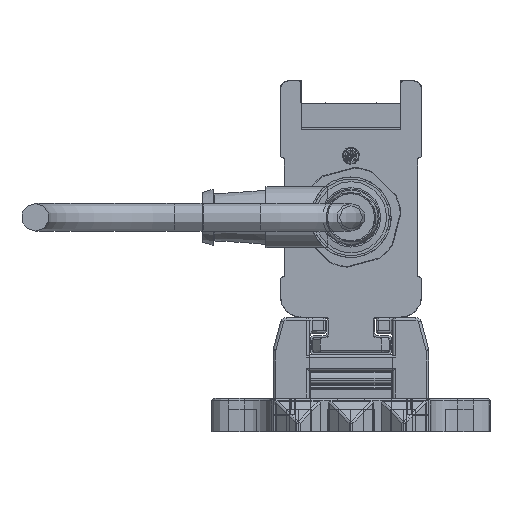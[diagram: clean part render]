
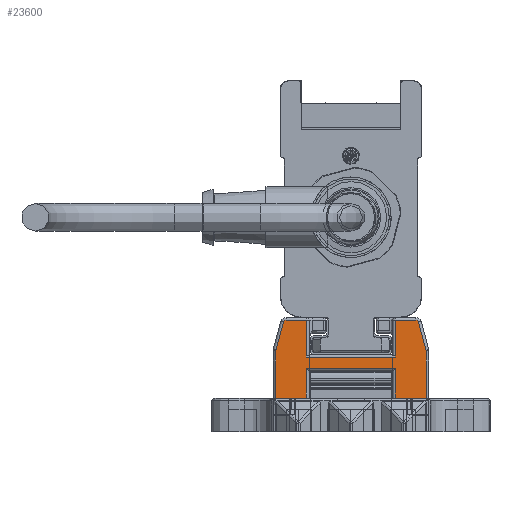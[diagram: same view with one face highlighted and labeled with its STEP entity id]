
A CAD part, left-side view. The second image highlights one B-rep face of the part: STEP entity #23600.
In plain terms, the highlighted planar face has unit normal (-1, 0, 0).
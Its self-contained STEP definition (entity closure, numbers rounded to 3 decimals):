
#23600=ADVANCED_FACE('', (#23610), #23620, .T.);
#189050=AXIS2_PLACEMENT_3D('Ax2Pl3d', #189060, #189070, #189080);
#189290=AXIS2_PLACEMENT_3D('Ax2Pl3d', #189300, #189310, #189320);
#194170=AXIS2_PLACEMENT_3D('Ax2Pl3d', #194180, #194190, #194200);
#199250=AXIS2_PLACEMENT_3D('Ax2Pl3d', #199260, #199270, #199280);
#208930=AXIS2_PLACEMENT_3D('Ax2Pl3d', #208940, #208950, #208960);
#844600=CARTESIAN_POINT('', (-747.669,-5526.345,
331.37));
#189060=CARTESIAN_POINT('HicPkt', (-747.669,-5525.379,
331.111));
#844610=CARTESIAN_POINT('', (-747.669,-5526.379,331.111)
);
#844620=CARTESIAN_POINT('', (-747.669,-5525.037,
336.255));
#844640=CARTESIAN_POINT('', (-747.669,-5525.037,
336.255));
#844670=CARTESIAN_POINT('', (-747.669,-5524.554,
336.625));
#189300=CARTESIAN_POINT('HicPkt', (-747.669,-5524.554,
336.125));
#844890=CARTESIAN_POINT('', (-747.669,-5526.379,322.625)
);
#844900=CARTESIAN_POINT('', (-747.669,-5520.881,322.625)
);
#844910=CARTESIAN_POINT('', (-747.669,-5520.881,322.625)
);
#844990=CARTESIAN_POINT('', (-747.669,-5504.881,322.625)
);
#845000=CARTESIAN_POINT('', (-747.669,-5499.383,322.625)
);
#845010=CARTESIAN_POINT('', (-747.669,-5499.383,322.625)
);
#194180=CARTESIAN_POINT('HicPkt', (-747.669,-5501.209,
336.125));
#847480=CARTESIAN_POINT('', (-747.669,-5500.726,
336.255));
#847490=CARTESIAN_POINT('', (-747.669,-5501.209,
336.625));
#847500=CARTESIAN_POINT('', (-747.669,-5520.881,
330.025));
#847510=CARTESIAN_POINT('', (-747.669,-5504.881,
330.025));
#847520=CARTESIAN_POINT('', (-747.669,-5520.881,
330.025));
#847680=CARTESIAN_POINT('', (-747.669,-5520.881,
328.005));
#847690=CARTESIAN_POINT('', (-747.669,-5504.881,
328.005));
#847700=CARTESIAN_POINT('', (-747.669,-5504.881,
328.005));
#847710=CARTESIAN_POINT('', (-747.669,-5520.881,
328.005));
#847730=CARTESIAN_POINT('', (-747.669,-5504.881,322.625)
);
#847740=CARTESIAN_POINT('', (-747.669,-5504.881,
330.025));
#847750=CARTESIAN_POINT('', (-747.669,-5504.881,
336.625));
#848600=CARTESIAN_POINT('', (-747.669,-5504.881,
336.625));
#848610=CARTESIAN_POINT('', (-747.669,-5500.726,
336.255));
#848620=CARTESIAN_POINT('', (-747.669,-5499.417,
331.37));
#848810=CARTESIAN_POINT('', (-747.669,-5499.383,331.111)
);
#848820=CARTESIAN_POINT('', (-747.669,-5499.383,331.111)
);
#199260=CARTESIAN_POINT('HicPkt', (-747.669,-5500.383,
331.111));
#849630=CARTESIAN_POINT('', (-747.669,-5526.379,331.111)
);
#208940=CARTESIAN_POINT('HicPkt', (-747.669,-5524.554,
336.625));
#851430=CARTESIAN_POINT('', (-747.669,-5520.881,
336.625));
#851440=CARTESIAN_POINT('', (-747.669,-5520.881,
336.625));
#851450=CARTESIAN_POINT('', (-747.669,-5520.881,
336.625));
#981330=CIRCLE('Circle', #189050, 1.);
#981370=CIRCLE('Circle', #189290, 0.5);
#981950=CIRCLE('Circle', #194170, 0.5);
#982480=CIRCLE('Circle', #199250, 1.);
#189070=DIRECTION('Axis', (-1.,0.,
0.));
#189080=DIRECTION('RefDirection', (0.,
0.,-1.));
#1367870=DIRECTION('', (0.,0.259,
0.966));
#189310=DIRECTION('Axis', (-1.,0.,
0.));
#189320=DIRECTION('RefDirection', (0.,
0.,-1.));
#1367980=DIRECTION('', (0.,1.,0.));
#1368020=DIRECTION('', (0.,1.,0.));
#194190=DIRECTION('Axis', (1.,0.,
0.));
#194200=DIRECTION('RefDirection', (0.,
0.,-1.));
#1369210=DIRECTION('', (0.,-1.,0.));
#1369310=DIRECTION('', (0.,1.,0.));
#1369320=DIRECTION('', (0.,0.,1.));
#1369340=DIRECTION('', (0.,0.,-1.));
#1369350=DIRECTION('', (0.,0.,-1.));
#1369780=DIRECTION('', (0.,-1.,0.))
;
#1369790=DIRECTION('', (0.,-0.259,0.966));
#1369880=DIRECTION('', (0.,0.,1.));
#199270=DIRECTION('Axis', (1.,0.,
0.));
#199280=DIRECTION('RefDirection', (0.,
0.,-1.));
#1370250=DIRECTION('', (0.,0.,1.));
#208950=DIRECTION('Axis', (-1.,0.,
0.));
#208960=DIRECTION('RefDirection', (0.,
0.,-1.));
#1371090=DIRECTION('', (0.,1.,0.));
#1371100=DIRECTION('', (0.,0.,1.));
#1456860=EDGE_CURVE('', #1456870, #1456850, #981330, .T.);
#1456920=EDGE_CURVE('', #1456850, #1456900, #1456930, .T.);
#1456990=EDGE_CURVE('', #1456900, #1456980, #981370, .T.);
#1457440=EDGE_CURVE('', #1457430, #1457450, #1457460, .T.);
#1457600=EDGE_CURVE('', #1457590, #1457610, #1457620, .T.);
#1461960=EDGE_CURVE('', #1461970, #1461980, #981950, .T.);
#1462010=EDGE_CURVE('', #1462020, #1462030, #1462040, .T.);
#1462380=EDGE_CURVE('', #1462360, #1462390, #1462400, .T.);
#1462430=EDGE_CURVE('', #1457450, #1462360, #1462440, .T.);
#1462470=EDGE_CURVE('', #1462390, #1457590, #1462480, .T.);
#1462490=EDGE_CURVE('', #1462500, #1462020, #1462510, .T.);
#1464330=EDGE_CURVE('', #1461980, #1462500, #1464340, .T.);
#1464400=EDGE_CURVE('', #1464410, #1461970, #1464420, .T.);
#1464840=EDGE_CURVE('', #1457610, #1464850, #1464860, .T.);
#1464880=EDGE_CURVE('', #1464850, #1464410, #982480, .T.);
#1466590=EDGE_CURVE('', #1457430, #1456870, #1466600, .T.);
#1470400=EDGE_CURVE('', #1456980, #1470410, #1470420, .T.);
#1470430=EDGE_CURVE('', #1462030, #1470410, #1470440, .T.);
#1750440=EDGE_LOOP('Edge_loop', (#1750450,#1750460,#1750470,#1750480,
#1750490,#1750500,#1750510,#1750520,#1750530,#1750540,#1750550,
#1750560,#1750570,#1750580,#1750590,#1750600,#1750610,#1750620));
#23610=FACE_OUTER_BOUND('Face_outer_bound', #1750440, .T.);
#1456930=LINE('Line', #844640, #2017940);
#1457460=LINE('Line', #844900, #2018050);
#1457620=LINE('Line', #845000, #2018090);
#1462040=LINE('Line', #847500, #2019280);
#1462400=LINE('Line', #847690, #2019380);
#1462440=LINE('Line', #847710, #2019390);
#1462480=LINE('Line', #847730, #2019410);
#1462510=LINE('Line', #847740, #2019420);
#1464340=LINE('Line', #848600, #2019850);
#1464420=LINE('Line', #848610, #2019860);
#1464860=LINE('Line', #848810, #2019950);
#1466600=LINE('Line', #849630, #2020320);
#1470420=LINE('Line', #851430, #2021160);
#1470440=LINE('Line', #851450, #2021170);
#1750450=ORIENTED_EDGE('', *, *, #1470400, .T.);
#1750460=ORIENTED_EDGE('', *, *, #1470430, .F.);
#1750470=ORIENTED_EDGE('', *, *, #1462010, .F.);
#1750480=ORIENTED_EDGE('', *, *, #1462490, .F.);
#1750490=ORIENTED_EDGE('', *, *, #1464330, .F.);
#1750500=ORIENTED_EDGE('', *, *, #1461960, .F.);
#1750510=ORIENTED_EDGE('', *, *, #1464400, .F.);
#1750520=ORIENTED_EDGE('', *, *, #1464880, .F.);
#1750530=ORIENTED_EDGE('', *, *, #1464840, .F.);
#1750540=ORIENTED_EDGE('', *, *, #1457600, .F.);
#1750550=ORIENTED_EDGE('', *, *, #1462470, .F.);
#1750560=ORIENTED_EDGE('', *, *, #1462380, .F.);
#1750570=ORIENTED_EDGE('', *, *, #1462430, .F.);
#1750580=ORIENTED_EDGE('', *, *, #1457440, .F.);
#1750590=ORIENTED_EDGE('', *, *, #1466590, .T.);
#1750600=ORIENTED_EDGE('', *, *, #1456860, .T.);
#1750610=ORIENTED_EDGE('', *, *, #1456920, .T.);
#1750620=ORIENTED_EDGE('', *, *, #1456990, .T.);
#23620=PLANE('Plane', #208930);
#2017940=VECTOR('', #1367870, 5.057);
#2018050=VECTOR('', #1367980, 5.498);
#2018090=VECTOR('', #1368020, 5.498);
#2019280=VECTOR('', #1369210, 16.);
#2019380=VECTOR('', #1369310, 16.);
#2019390=VECTOR('', #1369320, 5.38);
#2019410=VECTOR('', #1369340, 5.38);
#2019420=VECTOR('', #1369350, 6.6);
#2019850=VECTOR('', #1369780, 3.672);
#2019860=VECTOR('', #1369790, 5.057);
#2019950=VECTOR('', #1369880, 8.486);
#2020320=VECTOR('', #1370250, 8.486);
#2021160=VECTOR('', #1371090, 3.672);
#2021170=VECTOR('', #1371100, 6.6);
#1456850=VERTEX_POINT('', #844600);
#1456870=VERTEX_POINT('', #844610);
#1456900=VERTEX_POINT('', #844620);
#1456980=VERTEX_POINT('', #844670);
#1457430=VERTEX_POINT('', #844890);
#1457450=VERTEX_POINT('', #844910);
#1457590=VERTEX_POINT('', #844990);
#1457610=VERTEX_POINT('', #845010);
#1461970=VERTEX_POINT('', #847480);
#1461980=VERTEX_POINT('', #847490);
#1462020=VERTEX_POINT('', #847510);
#1462030=VERTEX_POINT('', #847520);
#1462360=VERTEX_POINT('', #847680);
#1462390=VERTEX_POINT('', #847700);
#1462500=VERTEX_POINT('', #847750);
#1464410=VERTEX_POINT('', #848620);
#1464850=VERTEX_POINT('', #848820);
#1470410=VERTEX_POINT('', #851440);
